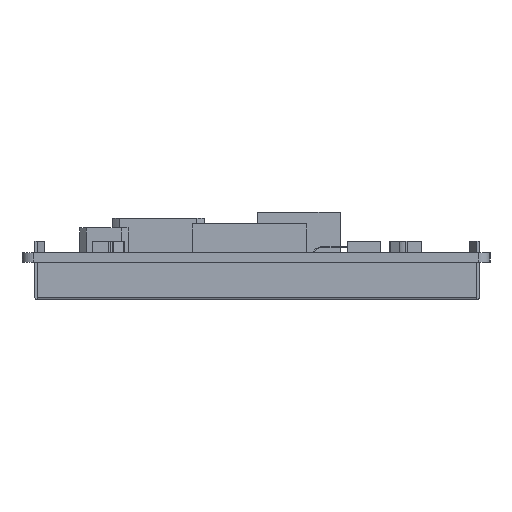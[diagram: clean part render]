
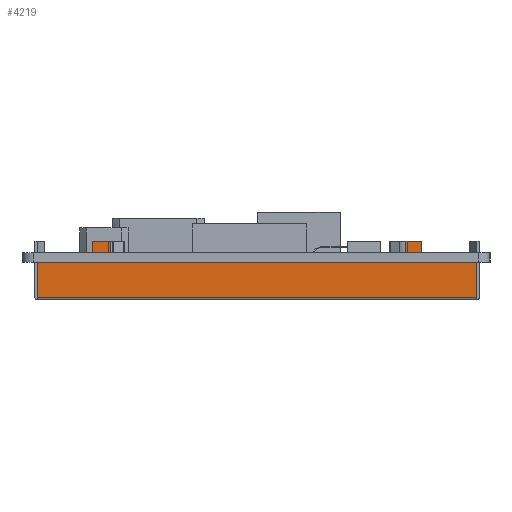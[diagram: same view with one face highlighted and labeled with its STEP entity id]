
A CAD part, left-side view. The second image highlights one B-rep face of the part: STEP entity #4219.
In plain terms, the highlighted planar face has unit normal (-1, 0, 0).
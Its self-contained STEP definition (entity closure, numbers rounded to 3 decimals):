
#2888=PLANE('',#30492);
#4219=ADVANCED_FACE('',(#5745),#2888,.F.);
#5745=FACE_OUTER_BOUND('',#7151,.T.);
#7151=EDGE_LOOP('',(#14599,#14600,#14601,#14602,#14603,#14604,#14605,#14606,
#14607,#14608,#14609,#14610,#14611,#14612,#14613,#14614));
#14599=ORIENTED_EDGE('',*,*,#21556,.F.);
#14600=ORIENTED_EDGE('',*,*,#21557,.T.);
#14601=ORIENTED_EDGE('',*,*,#21558,.T.);
#14602=ORIENTED_EDGE('',*,*,#21553,.T.);
#14603=ORIENTED_EDGE('',*,*,#21559,.T.);
#14604=ORIENTED_EDGE('',*,*,#21560,.F.);
#14605=ORIENTED_EDGE('',*,*,#21561,.T.);
#14606=ORIENTED_EDGE('',*,*,#21562,.F.);
#14607=ORIENTED_EDGE('',*,*,#21563,.F.);
#14608=ORIENTED_EDGE('',*,*,#21549,.T.);
#14609=ORIENTED_EDGE('',*,*,#21564,.T.);
#14610=ORIENTED_EDGE('',*,*,#21565,.T.);
#14611=ORIENTED_EDGE('',*,*,#21566,.F.);
#14612=ORIENTED_EDGE('',*,*,#21567,.F.);
#14613=ORIENTED_EDGE('',*,*,#21568,.F.);
#14614=ORIENTED_EDGE('',*,*,#21547,.T.);
#17786=VERTEX_POINT('',#44974);
#17788=VERTEX_POINT('',#44978);
#17789=VERTEX_POINT('',#44982);
#17791=VERTEX_POINT('',#44985);
#17793=VERTEX_POINT('',#44991);
#17795=VERTEX_POINT('',#44994);
#17797=VERTEX_POINT('',#45000);
#17798=VERTEX_POINT('',#45002);
#17799=VERTEX_POINT('',#45005);
#17800=VERTEX_POINT('',#45007);
#17801=VERTEX_POINT('',#45009);
#17802=VERTEX_POINT('',#45011);
#17803=VERTEX_POINT('',#45014);
#17804=VERTEX_POINT('',#45016);
#17805=VERTEX_POINT('',#45018);
#17806=VERTEX_POINT('',#45020);
#21547=EDGE_CURVE('',#17786,#17788,#25113,.T.);
#21549=EDGE_CURVE('',#17791,#17789,#25115,.T.);
#21553=EDGE_CURVE('',#17795,#17793,#25119,.T.);
#21556=EDGE_CURVE('',#17797,#17788,#25122,.T.);
#21557=EDGE_CURVE('',#17797,#17798,#25123,.T.);
#21558=EDGE_CURVE('',#17798,#17795,#25124,.T.);
#21559=EDGE_CURVE('',#17793,#17799,#25125,.T.);
#21560=EDGE_CURVE('',#17800,#17799,#25126,.T.);
#21561=EDGE_CURVE('',#17800,#17801,#25127,.T.);
#21562=EDGE_CURVE('',#17802,#17801,#25128,.T.);
#21563=EDGE_CURVE('',#17791,#17802,#25129,.T.);
#21564=EDGE_CURVE('',#17789,#17803,#25130,.T.);
#21565=EDGE_CURVE('',#17803,#17804,#25131,.T.);
#21566=EDGE_CURVE('',#17805,#17804,#25132,.T.);
#21567=EDGE_CURVE('',#17806,#17805,#25133,.T.);
#21568=EDGE_CURVE('',#17786,#17806,#25134,.T.);
#25113=LINE('',#44979,#28624);
#25115=LINE('',#44984,#28626);
#25119=LINE('',#44993,#28630);
#25122=LINE('',#44999,#28633);
#25123=LINE('',#45001,#28634);
#25124=LINE('',#45003,#28635);
#25125=LINE('',#45004,#28636);
#25126=LINE('',#45006,#28637);
#25127=LINE('',#45008,#28638);
#25128=LINE('',#45010,#28639);
#25129=LINE('',#45012,#28640);
#25130=LINE('',#45013,#28641);
#25131=LINE('',#45015,#28642);
#25132=LINE('',#45017,#28643);
#25133=LINE('',#45019,#28644);
#25134=LINE('',#45021,#28645);
#28624=VECTOR('',#36784,1.);
#28626=VECTOR('',#36788,1.);
#28630=VECTOR('',#36794,1.);
#28633=VECTOR('',#36799,1.);
#28634=VECTOR('',#36800,1.);
#28635=VECTOR('',#36801,1.);
#28636=VECTOR('',#36802,1.);
#28637=VECTOR('',#36803,1.);
#28638=VECTOR('',#36804,1.);
#28639=VECTOR('',#36805,1.);
#28640=VECTOR('',#36806,1.);
#28641=VECTOR('',#36807,1.);
#28642=VECTOR('',#36808,1.);
#28643=VECTOR('',#36809,1.);
#28644=VECTOR('',#36810,1.);
#28645=VECTOR('',#36811,1.);
#30492=AXIS2_PLACEMENT_3D('',#45022,#36812,#36813);
#36784=DIRECTION('',(0.,1.,0.));
#36788=DIRECTION('',(0.,1.,0.));
#36794=DIRECTION('',(0.,1.,0.));
#36799=DIRECTION('',(0.,0.,1.));
#36800=DIRECTION('',(0.,-1.,0.));
#36801=DIRECTION('',(0.,0.,1.));
#36802=DIRECTION('',(0.,0.,1.));
#36803=DIRECTION('',(0.,-1.,0.));
#36804=DIRECTION('',(0.,0.,-1.));
#36805=DIRECTION('',(0.,-1.,0.));
#36806=DIRECTION('',(0.,0.,1.));
#36807=DIRECTION('',(0.,0.,1.));
#36808=DIRECTION('',(0.,-1.,0.));
#36809=DIRECTION('',(0.,0.,-1.));
#36810=DIRECTION('',(0.,-1.,0.));
#36811=DIRECTION('',(0.,0.,1.));
#36812=DIRECTION('',(1.,0.,0.));
#36813=DIRECTION('',(0.,1.,0.));
#44974=CARTESIAN_POINT('',(59.66,45.295,-1.6));
#44978=CARTESIAN_POINT('',(59.66,54.82,-1.6));
#44979=CARTESIAN_POINT('',(59.66,-21.2,-1.6));
#44982=CARTESIAN_POINT('',(59.66,42.295,-1.6));
#44984=CARTESIAN_POINT('',(59.66,-21.2,-1.6));
#44985=CARTESIAN_POINT('',(59.66,-8.635,-1.6));
#44991=CARTESIAN_POINT('',(59.66,-11.635,-1.6));
#44993=CARTESIAN_POINT('',(59.66,-21.2,-1.6));
#44994=CARTESIAN_POINT('',(59.66,-21.2,-1.6));
#44999=CARTESIAN_POINT('',(59.66,54.82,-8.1));
#45000=CARTESIAN_POINT('',(59.66,54.82,-7.7));
#45001=CARTESIAN_POINT('',(59.66,-21.2,-7.7));
#45002=CARTESIAN_POINT('',(59.66,-21.2,-7.7));
#45003=CARTESIAN_POINT('',(59.66,-21.2,-8.1));
#45004=CARTESIAN_POINT('',(59.66,-11.635,-1.6));
#45005=CARTESIAN_POINT('',(59.66,-11.635,2.));
#45006=CARTESIAN_POINT('',(59.66,-8.924,2.));
#45007=CARTESIAN_POINT('',(59.66,-8.924,2.));
#45008=CARTESIAN_POINT('',(59.66,-8.924,2.));
#45009=CARTESIAN_POINT('',(59.66,-8.924,0.));
#45010=CARTESIAN_POINT('',(59.66,-8.635,0.));
#45011=CARTESIAN_POINT('',(59.66,-8.635,0.));
#45012=CARTESIAN_POINT('',(59.66,-8.635,-1.6));
#45013=CARTESIAN_POINT('',(59.66,42.295,-1.6));
#45014=CARTESIAN_POINT('',(59.66,42.295,0.));
#45015=CARTESIAN_POINT('',(59.66,45.295,0.));
#45016=CARTESIAN_POINT('',(59.66,42.191,0.));
#45017=CARTESIAN_POINT('',(59.66,42.191,2.));
#45018=CARTESIAN_POINT('',(59.66,42.191,2.));
#45019=CARTESIAN_POINT('',(59.66,45.295,2.));
#45020=CARTESIAN_POINT('',(59.66,45.295,2.));
#45021=CARTESIAN_POINT('',(59.66,45.295,-1.6));
#45022=CARTESIAN_POINT('',(59.66,-21.2,-8.1));
